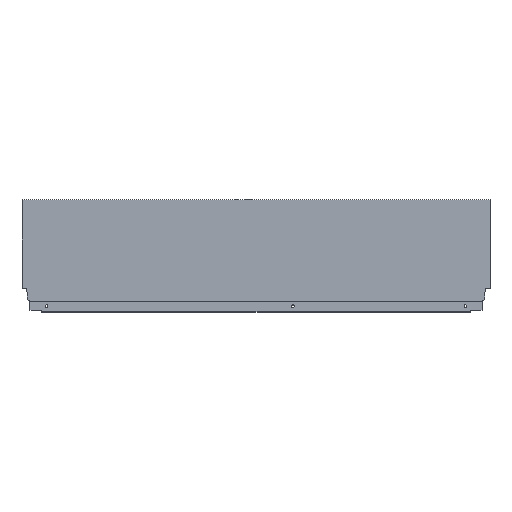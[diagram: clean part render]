
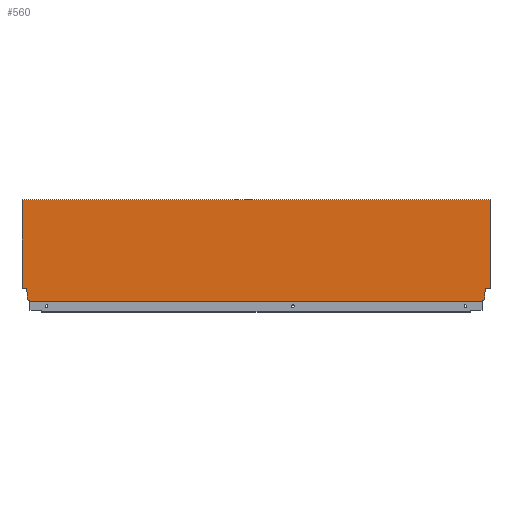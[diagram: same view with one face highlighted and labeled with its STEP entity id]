
A CAD part, top view. The second image highlights one B-rep face of the part: STEP entity #560.
In plain terms, the highlighted planar face has unit normal (0, 0, 1).
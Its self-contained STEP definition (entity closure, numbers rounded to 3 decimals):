
#152 = EDGE_CURVE ( 'NONE', #877, #863, #1244, .T. ) ;
#161 = EDGE_CURVE ( 'NONE', #850, #863, #1255, .T. ) ;
#163 = EDGE_CURVE ( 'NONE', #858, #837, #1254, .T. ) ;
#164 = EDGE_CURVE ( 'NONE', #817, #838, #1249, .T. ) ;
#167 = EDGE_CURVE ( 'NONE', #879, #858, #1259, .T. ) ;
#177 = EDGE_CURVE ( 'NONE', #847, #864, #1271, .T. ) ;
#194 = CARTESIAN_POINT ( 'NONE',  ( -752.1, 2.64, 7.5 ) ) ;
#202 = CARTESIAN_POINT ( 'NONE',  ( -7.06, 21.2, 7.5 ) ) ;
#218 = CARTESIAN_POINT ( 'NONE',  ( 0., 21.2, 7.5 ) ) ;
#220 = CARTESIAN_POINT ( 'NONE',  ( -13.004, 0., 7.5 ) ) ;
#229 = CARTESIAN_POINT ( 'NONE',  ( -8.9, 2.64, 7.5 ) ) ;
#235 = CARTESIAN_POINT ( 'NONE',  ( -753.94, 21.2, 7.5 ) ) ;
#240 = CARTESIAN_POINT ( 'NONE',  ( -747.996, 1.146, 7.5 ) ) ;
#244 = CARTESIAN_POINT ( 'NONE',  ( -747.996, 0., 7.5 ) ) ;
#246 = CARTESIAN_POINT ( 'NONE',  ( -8.9, 10.765, 7.5 ) ) ;
#270 = EDGE_CURVE ( 'NONE', #876, #872, #1356, .T. ) ;
#273 = EDGE_CURVE ( 'NONE', #837, #875, #1365, .T. ) ;
#276 = EDGE_CURVE ( 'NONE', #872, #850, #1369, .T. ) ;
#303 = CARTESIAN_POINT ( 'NONE',  ( 0., 164.7, 7.5 ) ) ;
#312 = CARTESIAN_POINT ( 'NONE',  ( -13.004, 1.146, 7.5 ) ) ;
#339 = PLANE ( 'NONE',  #413 ) ;
#347 = CARTESIAN_POINT ( 'NONE',  ( -761., 0., 7.5 ) ) ;
#359 = CARTESIAN_POINT ( 'NONE',  ( -761., 164.7, 7.5 ) ) ;
#363 = DIRECTION ( 'NONE',  ( 0., 0., 1. ) ) ;
#366 = DIRECTION ( 'NONE',  ( 1., 0., 0. ) ) ;
#411 = CARTESIAN_POINT ( 'NONE',  ( -752.1, 10.765, 7.5 ) ) ;
#413 = AXIS2_PLACEMENT_3D ( 'NONE', #347, #363, #366 ) ;
#412 = CARTESIAN_POINT ( 'NONE',  ( -761., 21.2, 7.5 ) ) ;
#458 = EDGE_CURVE ( 'NONE', #877, #879, #927, .T. ) ;
#459 = EDGE_CURVE ( 'NONE', #864, #855, #929, .T. ) ;
#460 = EDGE_CURVE ( 'NONE', #855, #876, #931, .T. ) ;
#484 = EDGE_CURVE ( 'NONE', #875, #838, #977, .T. ) ;
#485 = EDGE_CURVE ( 'NONE', #817, #847, #979, .T. ) ;
#560 = ADVANCED_FACE ( 'NONE', ( #1055 ), #339, .T. ) ;
#607 = CARTESIAN_POINT ( 'NONE',  ( -8.9, 2.64, 7.5 ) ) ;
#616 = DIRECTION ( 'NONE',  ( -0.174, -0.985, 0. ) ) ;
#617 = DIRECTION ( 'NONE',  ( -1., 0., 0. ) ) ;
#618 = DIRECTION ( 'NONE',  ( 0., 1., 0. ) ) ;
#619 = CARTESIAN_POINT ( 'NONE',  ( -747.996, 1.146, 7.5 ) ) ;
#628 = DIRECTION ( 'NONE',  ( -0.174, 0.985, 0. ) ) ;
#644 = DIRECTION ( 'NONE',  ( -0.94, -0.342, 0. ) ) ;
#646 = CARTESIAN_POINT ( 'NONE',  ( -753.94, 21.2, 7.5 ) ) ;
#655 = CARTESIAN_POINT ( 'NONE',  ( 0., 21.2, 7.5 ) ) ;
#656 = CARTESIAN_POINT ( 'NONE',  ( -7.06, 21.2, 7.5 ) ) ;
#659 = DIRECTION ( 'NONE',  ( 1., 0., 0. ) ) ;
#660 = CARTESIAN_POINT ( 'NONE',  ( -761., 164.7, 7.5 ) ) ;
#663 = DIRECTION ( 'NONE',  ( -1., 0., 0. ) ) ;
#664 = CARTESIAN_POINT ( 'NONE',  ( -766., 21.2, 7.5 ) ) ;
#772 = DIRECTION ( 'NONE',  ( 0., -1., 0. ) ) ;
#775 = CARTESIAN_POINT ( 'NONE',  ( 0., 0., 7.5 ) ) ;
#780 = DIRECTION ( 'NONE',  ( -0.94, 0.342, 0. ) ) ;
#784 = DIRECTION ( 'NONE',  ( 0., -1., 0. ) ) ;
#785 = CARTESIAN_POINT ( 'NONE',  ( -752.1, 2.64, 7.5 ) ) ;
#786 = DIRECTION ( 'NONE',  ( 0., 1., 0. ) ) ;
#787 = CARTESIAN_POINT ( 'NONE',  ( -761., 0., 7.5 ) ) ;
#790 = DIRECTION ( 'NONE',  ( 0., -1., 0. ) ) ;
#791 = CARTESIAN_POINT ( 'NONE',  ( -752.1, 10.765, 7.5 ) ) ;
#793 = CARTESIAN_POINT ( 'NONE',  ( -13.004, 1.146, 7.5 ) ) ;
#799 = DIRECTION ( 'NONE',  ( 1., 0., 0. ) ) ;
#800 = CARTESIAN_POINT ( 'NONE',  ( -761., 0., 7.5 ) ) ;
#817 = VERTEX_POINT ( 'NONE', #359 ) ;
#837 = VERTEX_POINT ( 'NONE', #411 ) ;
#838 = VERTEX_POINT ( 'NONE', #412 ) ;
#847 = VERTEX_POINT ( 'NONE', #303 ) ;
#850 = VERTEX_POINT ( 'NONE', #312 ) ;
#855 = VERTEX_POINT ( 'NONE', #202 ) ;
#858 = VERTEX_POINT ( 'NONE', #194 ) ;
#863 = VERTEX_POINT ( 'NONE', #220 ) ;
#864 = VERTEX_POINT ( 'NONE', #218 ) ;
#872 = VERTEX_POINT ( 'NONE', #229 ) ;
#875 = VERTEX_POINT ( 'NONE', #235 ) ;
#876 = VERTEX_POINT ( 'NONE', #246 ) ;
#877 = VERTEX_POINT ( 'NONE', #244 ) ;
#879 = VERTEX_POINT ( 'NONE', #240 ) ;
#910 = CARTESIAN_POINT ( 'NONE',  ( -8.9, 10.765, 7.5 ) ) ;
#911 = DIRECTION ( 'NONE',  ( 0., -1., 0. ) ) ;
#927 = LINE ( 'NONE', #619, #928 ) ;
#928 = VECTOR ( 'NONE', #618, 1000. ) ;
#929 = LINE ( 'NONE', #655, #930 ) ;
#930 = VECTOR ( 'NONE', #617, 1000. ) ;
#931 = LINE ( 'NONE', #656, #932 ) ;
#932 = VECTOR ( 'NONE', #616, 1000. ) ;
#977 = LINE ( 'NONE', #664, #978 ) ;
#978 = VECTOR ( 'NONE', #663, 1000. ) ;
#979 = LINE ( 'NONE', #660, #980 ) ;
#980 = VECTOR ( 'NONE', #659, 1000. ) ;
#1055 = FACE_OUTER_BOUND ( 'NONE', #1230, .T. ) ;
#1230 = EDGE_LOOP ( 'NONE', ( #1417, #1418, #1419, #1426, #1425, #1424, #1429, #1428, #1427, #1435, #1434, #1545, #1516, #1537 ) ) ;
#1244 = LINE ( 'NONE', #800, #1246 ) ;
#1246 = VECTOR ( 'NONE', #799, 1000. ) ;
#1249 = LINE ( 'NONE', #787, #1264 ) ;
#1254 = LINE ( 'NONE', #791, #1262 ) ;
#1255 = LINE ( 'NONE', #793, #1258 ) ;
#1258 = VECTOR ( 'NONE', #790, 1000. ) ;
#1259 = LINE ( 'NONE', #785, #1268 ) ;
#1262 = VECTOR ( 'NONE', #786, 1000. ) ;
#1264 = VECTOR ( 'NONE', #784, 1000. ) ;
#1268 = VECTOR ( 'NONE', #780, 1000. ) ;
#1271 = LINE ( 'NONE', #775, #1276 ) ;
#1276 = VECTOR ( 'NONE', #772, 1000. ) ;
#1356 = LINE ( 'NONE', #910, #1357 ) ;
#1357 = VECTOR ( 'NONE', #911, 1000. ) ;
#1365 = LINE ( 'NONE', #646, #1366 ) ;
#1366 = VECTOR ( 'NONE', #628, 1000. ) ;
#1369 = LINE ( 'NONE', #607, #1370 ) ;
#1370 = VECTOR ( 'NONE', #644, 1000. ) ;
#1417 = ORIENTED_EDGE ( 'NONE', *, *, #164, .T. ) ;
#1418 = ORIENTED_EDGE ( 'NONE', *, *, #484, .F. ) ;
#1419 = ORIENTED_EDGE ( 'NONE', *, *, #273, .F. ) ;
#1424 = ORIENTED_EDGE ( 'NONE', *, *, #458, .F. ) ;
#1425 = ORIENTED_EDGE ( 'NONE', *, *, #167, .F. ) ;
#1426 = ORIENTED_EDGE ( 'NONE', *, *, #163, .F. ) ;
#1427 = ORIENTED_EDGE ( 'NONE', *, *, #276, .F. ) ;
#1428 = ORIENTED_EDGE ( 'NONE', *, *, #161, .F. ) ;
#1429 = ORIENTED_EDGE ( 'NONE', *, *, #152, .T. ) ;
#1434 = ORIENTED_EDGE ( 'NONE', *, *, #460, .F. ) ;
#1435 = ORIENTED_EDGE ( 'NONE', *, *, #270, .F. ) ;
#1516 = ORIENTED_EDGE ( 'NONE', *, *, #177, .F. ) ;
#1537 = ORIENTED_EDGE ( 'NONE', *, *, #485, .F. ) ;
#1545 = ORIENTED_EDGE ( 'NONE', *, *, #459, .F. ) ;
